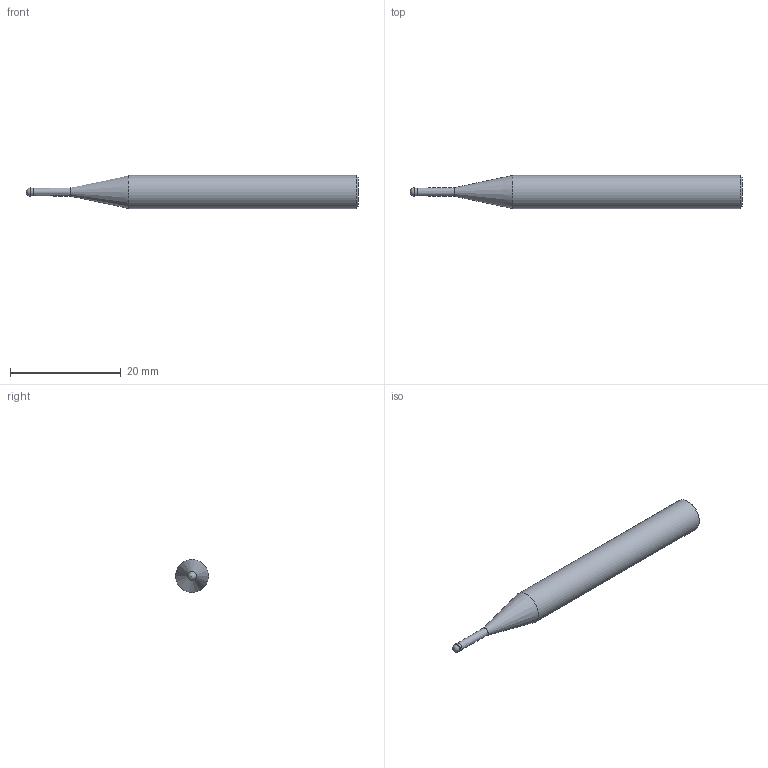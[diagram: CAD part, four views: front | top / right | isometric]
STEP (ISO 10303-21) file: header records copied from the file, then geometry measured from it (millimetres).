
FILE_DESCRIPTION(/* description */ (''),/* implementation_level */ '2;1');
FILE_NAME(/* name */ 'HGXPB2015-8-T0.4 0660.stp',/* time_stamp */ '2026-01-22T08:59:44+08:00',/* author */ (''),/* organization */ (''),/* preprocessor_version */ 'ST-DEVELOPER v16',/* originating_system */ 'SIEMENS PLM Software NX 10.0',/* authorisation */ '');
FILE_SCHEMA (('CONFIG_CONTROL_DESIGN'));
Length unit declared in the file: millimetre
Products named in the file (1): HGXPB2015-8-T0.4 0660_x_t
Bounding box: 60 x 6 x 6 mm (x, y, z)
Volume: 1315 mm3; surface area: 970.5 mm2
Topology: 1 solids, 1 shells, 9 faces, 16 edges, 9 vertices
Faces by surface type: cylinder 3, cone 3, plane 2, sphere 1
Full cylindrical faces by diameter (mm): 1.42 x1, 1.5 x1, 6 x1
Entity records: 264 total; most frequent: CARTESIAN_POINT 35, DIRECTION 34, AXIS2_PLACEMENT_3D 17, EDGE_LOOP 16, ORIENTED_EDGE 16, FACE_BOUND 14, ADVANCED_FACE 9, VERTEX_POINT 8
